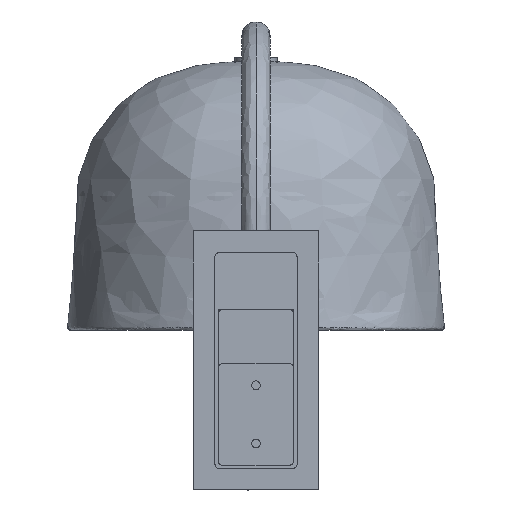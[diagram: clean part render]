
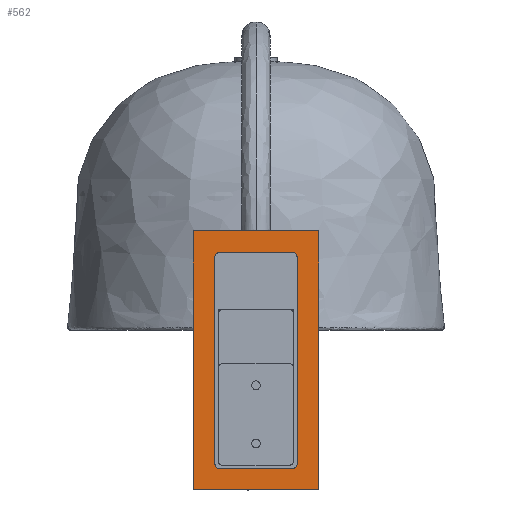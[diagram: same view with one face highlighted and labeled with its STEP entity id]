
A CAD part, left-side view. The second image highlights one B-rep face of the part: STEP entity #562.
In plain terms, the highlighted planar face has unit normal (-1, 0, 0).
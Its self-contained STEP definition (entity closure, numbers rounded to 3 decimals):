
#105=B_SPLINE_CURVE_WITH_KNOTS('',1,(#9917,#9918),.UNSPECIFIED.,.F.,.F.,
(2,2),(-163.106,-129.106),.UNSPECIFIED.);
#106=B_SPLINE_CURVE_WITH_KNOTS('',1,(#9919,#9920),.UNSPECIFIED.,.F.,.F.,
(2,2),(-125.106,-48.263),.UNSPECIFIED.);
#108=B_SPLINE_CURVE_WITH_KNOTS('',1,(#9948,#9949),.UNSPECIFIED.,.F.,.F.,
(2,2),(92.051,168.894),.UNSPECIFIED.);
#115=B_SPLINE_CURVE_WITH_KNOTS('',1,(#9984,#9985),.UNSPECIFIED.,.F.,.F.,
(2,2),(42.894,62.051),.UNSPECIFIED.);
#116=B_SPLINE_CURVE_WITH_KNOTS('',1,(#9986,#9987),.UNSPECIFIED.,.F.,.F.,
(2,2),(4.894,38.894),.UNSPECIFIED.);
#118=B_SPLINE_CURVE_WITH_KNOTS('',1,(#10002,#10003),.UNSPECIFIED.,.F.,.F.,
(2,2),(-18.263,0.894),.UNSPECIFIED.);
#265=FACE_BOUND('',#1150,.T.);
#318=PLANE('',#4331);
#562=ADVANCED_FACE('',(#843,#265),#318,.T.);
#843=FACE_OUTER_BOUND('',#1149,.T.);
#1149=EDGE_LOOP('',(#1913,#1914,#1915,#1916,#1917,#1918));
#1150=EDGE_LOOP('',(#1919,#1920,#1921,#1922,#1923,#1924,#1925,#1926,#1927,
#1928));
#1913=ORIENTED_EDGE('',*,*,#2886,.F.);
#1914=ORIENTED_EDGE('',*,*,#2902,.F.);
#1915=ORIENTED_EDGE('',*,*,#2911,.F.);
#1916=ORIENTED_EDGE('',*,*,#2912,.T.);
#1917=ORIENTED_EDGE('',*,*,#2907,.T.);
#1918=ORIENTED_EDGE('',*,*,#2900,.T.);
#1919=ORIENTED_EDGE('',*,*,#2904,.T.);
#1920=ORIENTED_EDGE('',*,*,#2928,.T.);
#1921=ORIENTED_EDGE('',*,*,#2893,.T.);
#1922=ORIENTED_EDGE('',*,*,#2929,.T.);
#1923=ORIENTED_EDGE('',*,*,#2894,.T.);
#1924=ORIENTED_EDGE('',*,*,#2925,.T.);
#1925=ORIENTED_EDGE('',*,*,#2926,.T.);
#1926=ORIENTED_EDGE('',*,*,#2920,.T.);
#1927=ORIENTED_EDGE('',*,*,#2927,.T.);
#1928=ORIENTED_EDGE('',*,*,#2919,.T.);
#2886=EDGE_CURVE('',#3871,#3869,#3449,.T.);
#2893=EDGE_CURVE('',#3877,#3878,#105,.T.);
#2894=EDGE_CURVE('',#3879,#3887,#106,.T.);
#2900=EDGE_CURVE('',#3882,#3869,#3455,.T.);
#2902=EDGE_CURVE('',#3885,#3871,#3457,.T.);
#2904=EDGE_CURVE('',#3886,#3876,#108,.T.);
#2907=EDGE_CURVE('',#3890,#3882,#3460,.T.);
#2911=EDGE_CURVE('',#3893,#3885,#3464,.T.);
#2912=EDGE_CURVE('',#3893,#3890,#3465,.T.);
#2919=EDGE_CURVE('',#3898,#3886,#115,.T.);
#2920=EDGE_CURVE('',#3900,#3901,#116,.T.);
#2925=EDGE_CURVE('',#3887,#3899,#118,.T.);
#2926=EDGE_CURVE('',#3899,#3900,#3469,.T.);
#2927=EDGE_CURVE('',#3901,#3898,#3470,.T.);
#2928=EDGE_CURVE('',#3876,#3877,#3471,.T.);
#2929=EDGE_CURVE('',#3878,#3879,#3472,.T.);
#3449=(
BOUNDED_CURVE()
B_SPLINE_CURVE(2,(#9902,#9903,#9904),.UNSPECIFIED.,.F.,.F.)
B_SPLINE_CURVE_WITH_KNOTS((3,3),(-175.106,-117.106),
 .UNSPECIFIED.)
CURVE()
GEOMETRIC_REPRESENTATION_ITEM()
RATIONAL_B_SPLINE_CURVE((1.,1.,1.))
REPRESENTATION_ITEM('')
);
#3455=(
BOUNDED_CURVE()
B_SPLINE_CURVE(1,(#9940,#9941),.UNSPECIFIED.,.F.,.F.)
B_SPLINE_CURVE_WITH_KNOTS((2,2),(61.157,150.),.UNSPECIFIED.)
CURVE()
GEOMETRIC_REPRESENTATION_ITEM()
RATIONAL_B_SPLINE_CURVE((1.,1.))
REPRESENTATION_ITEM('')
);
#3457=(
BOUNDED_CURVE()
B_SPLINE_CURVE(1,(#9944,#9945),.UNSPECIFIED.,.F.,.F.)
B_SPLINE_CURVE_WITH_KNOTS((2,2),(61.157,150.),.UNSPECIFIED.)
CURVE()
GEOMETRIC_REPRESENTATION_ITEM()
RATIONAL_B_SPLINE_CURVE((1.,1.))
REPRESENTATION_ITEM('')
);
#3460=(
BOUNDED_CURVE()
B_SPLINE_CURVE(1,(#9955,#9956),.UNSPECIFIED.,.F.,.F.)
B_SPLINE_CURVE_WITH_KNOTS((2,2),(0.,31.157),.UNSPECIFIED.)
CURVE()
GEOMETRIC_REPRESENTATION_ITEM()
RATIONAL_B_SPLINE_CURVE((1.,1.))
REPRESENTATION_ITEM('')
);
#3464=(
BOUNDED_CURVE()
B_SPLINE_CURVE(1,(#9967,#9968),.UNSPECIFIED.,.F.,.F.)
B_SPLINE_CURVE_WITH_KNOTS((2,2),(0.,31.157),.UNSPECIFIED.)
CURVE()
GEOMETRIC_REPRESENTATION_ITEM()
RATIONAL_B_SPLINE_CURVE((1.,1.))
REPRESENTATION_ITEM('')
);
#3465=(
BOUNDED_CURVE()
B_SPLINE_CURVE(2,(#9969,#9970,#9971),.UNSPECIFIED.,.F.,.F.)
B_SPLINE_CURVE_WITH_KNOTS((3,3),(-175.106,-117.106),
 .UNSPECIFIED.)
CURVE()
GEOMETRIC_REPRESENTATION_ITEM()
RATIONAL_B_SPLINE_CURVE((1.,1.,1.))
REPRESENTATION_ITEM('')
);
#3469=(
BOUNDED_CURVE()
B_SPLINE_CURVE(2,(#10004,#10005,#10006),.UNSPECIFIED.,.F.,.F.)
B_SPLINE_CURVE_WITH_KNOTS((3,3),(275.177,278.319),
 .UNSPECIFIED.)
CURVE()
GEOMETRIC_REPRESENTATION_ITEM()
RATIONAL_B_SPLINE_CURVE((1.,0.707,1.))
REPRESENTATION_ITEM('')
);
#3470=(
BOUNDED_CURVE()
B_SPLINE_CURVE(2,(#10007,#10008,#10009),.UNSPECIFIED.,.F.,.F.)
B_SPLINE_CURVE_WITH_KNOTS((3,3),(312.319,315.46),
 .UNSPECIFIED.)
CURVE()
GEOMETRIC_REPRESENTATION_ITEM()
RATIONAL_B_SPLINE_CURVE((1.,0.707,1.))
REPRESENTATION_ITEM('')
);
#3471=(
BOUNDED_CURVE()
B_SPLINE_CURVE(2,(#10010,#10011,#10012),.UNSPECIFIED.,.F.,.F.)
B_SPLINE_CURVE_WITH_KNOTS((3,3),(138.894,142.035),
 .UNSPECIFIED.)
CURVE()
GEOMETRIC_REPRESENTATION_ITEM()
RATIONAL_B_SPLINE_CURVE((1.,0.707,1.))
REPRESENTATION_ITEM('')
);
#3472=(
BOUNDED_CURVE()
B_SPLINE_CURVE(2,(#10013,#10014,#10015),.UNSPECIFIED.,.F.,.F.)
B_SPLINE_CURVE_WITH_KNOTS((3,3),(176.035,179.177),
 .UNSPECIFIED.)
CURVE()
GEOMETRIC_REPRESENTATION_ITEM()
RATIONAL_B_SPLINE_CURVE((1.,0.707,1.))
REPRESENTATION_ITEM('')
);
#3869=VERTEX_POINT('',#9852);
#3871=VERTEX_POINT('',#9854);
#3876=VERTEX_POINT('',#9859);
#3877=VERTEX_POINT('',#9860);
#3878=VERTEX_POINT('',#9861);
#3879=VERTEX_POINT('',#9862);
#3882=VERTEX_POINT('',#9865);
#3885=VERTEX_POINT('',#9868);
#3886=VERTEX_POINT('',#9869);
#3887=VERTEX_POINT('',#9870);
#3890=VERTEX_POINT('',#9873);
#3893=VERTEX_POINT('',#9876);
#3898=VERTEX_POINT('',#9881);
#3899=VERTEX_POINT('',#9882);
#3900=VERTEX_POINT('',#9883);
#3901=VERTEX_POINT('',#9884);
#4331=AXIS2_PLACEMENT_3D('',#9827,#4443,$);
#4443=DIRECTION('',(-1.,0.,0.));
#9827=CARTESIAN_POINT('',(1351.883,18.945,50.306));
#9852=CARTESIAN_POINT('',(1351.883,77.525,51.506));
#9854=CARTESIAN_POINT('',(1351.883,19.525,51.506));
#9859=CARTESIAN_POINT('',(1351.883,29.525,63.506));
#9860=CARTESIAN_POINT('',(1351.883,31.525,61.506));
#9861=CARTESIAN_POINT('',(1351.883,65.525,61.506));
#9862=CARTESIAN_POINT('',(1351.883,67.525,63.506));
#9865=CARTESIAN_POINT('',(1351.883,77.525,140.349));
#9868=CARTESIAN_POINT('',(1351.883,19.525,140.349));
#9869=CARTESIAN_POINT('',(1351.883,29.525,140.349));
#9870=CARTESIAN_POINT('',(1351.883,67.525,140.349));
#9873=CARTESIAN_POINT('',(1351.883,77.525,171.506));
#9876=CARTESIAN_POINT('',(1351.883,19.525,171.506));
#9881=CARTESIAN_POINT('',(1351.883,29.525,159.506));
#9882=CARTESIAN_POINT('',(1351.883,67.525,159.506));
#9883=CARTESIAN_POINT('',(1351.883,65.525,161.506));
#9884=CARTESIAN_POINT('',(1351.883,31.525,161.506));
#9902=CARTESIAN_POINT('',(1351.883,19.525,51.506));
#9903=CARTESIAN_POINT('',(1351.883,48.525,51.506));
#9904=CARTESIAN_POINT('',(1351.883,77.525,51.506));
#9917=CARTESIAN_POINT('',(1351.883,31.525,61.506));
#9918=CARTESIAN_POINT('',(1351.883,65.525,61.506));
#9919=CARTESIAN_POINT('',(1351.883,67.525,63.506));
#9920=CARTESIAN_POINT('',(1351.883,67.525,140.349));
#9940=CARTESIAN_POINT('',(1351.883,77.525,140.349));
#9941=CARTESIAN_POINT('',(1351.883,77.525,51.506));
#9944=CARTESIAN_POINT('',(1351.883,19.525,140.349));
#9945=CARTESIAN_POINT('',(1351.883,19.525,51.506));
#9948=CARTESIAN_POINT('',(1351.883,29.525,140.349));
#9949=CARTESIAN_POINT('',(1351.883,29.525,63.506));
#9955=CARTESIAN_POINT('',(1351.883,77.525,171.506));
#9956=CARTESIAN_POINT('',(1351.883,77.525,140.349));
#9967=CARTESIAN_POINT('',(1351.883,19.525,171.506));
#9968=CARTESIAN_POINT('',(1351.883,19.525,140.349));
#9969=CARTESIAN_POINT('',(1351.883,19.525,171.506));
#9970=CARTESIAN_POINT('',(1351.883,48.525,171.506));
#9971=CARTESIAN_POINT('',(1351.883,77.525,171.506));
#9984=CARTESIAN_POINT('',(1351.883,29.525,159.506));
#9985=CARTESIAN_POINT('',(1351.883,29.525,140.349));
#9986=CARTESIAN_POINT('',(1351.883,65.525,161.506));
#9987=CARTESIAN_POINT('',(1351.883,31.525,161.506));
#10002=CARTESIAN_POINT('',(1351.883,67.525,140.349));
#10003=CARTESIAN_POINT('',(1351.883,67.525,159.506));
#10004=CARTESIAN_POINT('',(1351.883,67.525,159.506));
#10005=CARTESIAN_POINT('',(1351.883,67.525,161.506));
#10006=CARTESIAN_POINT('',(1351.883,65.525,161.506));
#10007=CARTESIAN_POINT('',(1351.883,31.525,161.506));
#10008=CARTESIAN_POINT('',(1351.883,29.525,161.506));
#10009=CARTESIAN_POINT('',(1351.883,29.525,159.506));
#10010=CARTESIAN_POINT('',(1351.883,29.525,63.506));
#10011=CARTESIAN_POINT('',(1351.883,29.525,61.506));
#10012=CARTESIAN_POINT('',(1351.883,31.525,61.506));
#10013=CARTESIAN_POINT('',(1351.883,65.525,61.506));
#10014=CARTESIAN_POINT('',(1351.883,67.525,61.506));
#10015=CARTESIAN_POINT('',(1351.883,67.525,63.506));
